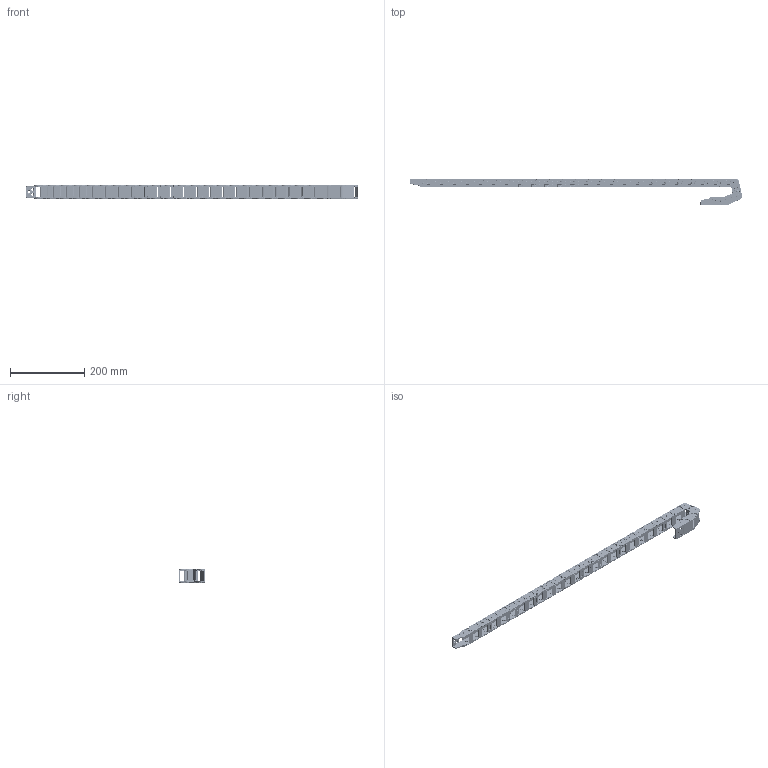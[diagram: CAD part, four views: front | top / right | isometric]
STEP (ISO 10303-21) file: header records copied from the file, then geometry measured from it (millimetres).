
FILE_DESCRIPTION(/* description */ (''),/* implementation_level */ '2;1');
FILE_NAME(/* name */ 'BF18x25R28.prt.stp',/* time_stamp */ '2022-11-17T15:10:56+08:00',/* author */ (''),/* organization */ (''),/* preprocessor_version */ 'ST-DEVELOPER v16',/* originating_system */ 'SIEMENS PLM Software NX 10.0',/* authorisation */ '');
FILE_SCHEMA (('CONFIG_CONTROL_DESIGN'));
Products named in the file (1): BF18x25R28
Bounding box: 897.08 x 72.49 x 36.7 mm (x, y, z)
Volume: 282143.4 mm3; surface area: 266790.4 mm2
Topology: 56 solids, 56 shells, 15026 faces, 40218 edges, 26247 vertices
Faces by surface type: plane 7616, bspline 3167, cylinder 2874, torus 834, extrusion 513, cone 18, sphere 4
Full cylindrical faces by diameter (mm): 4 x54
Entity records: 631471 total; most frequent: CARTESIAN_POINT 276658, ORIENTED_EDGE 79946, DIRECTION 62169, EDGE_CURVE 39973, VERTEX_POINT 26193, VECTOR 25459, LINE 24946, AXIS2_PLACEMENT_3D 18355
